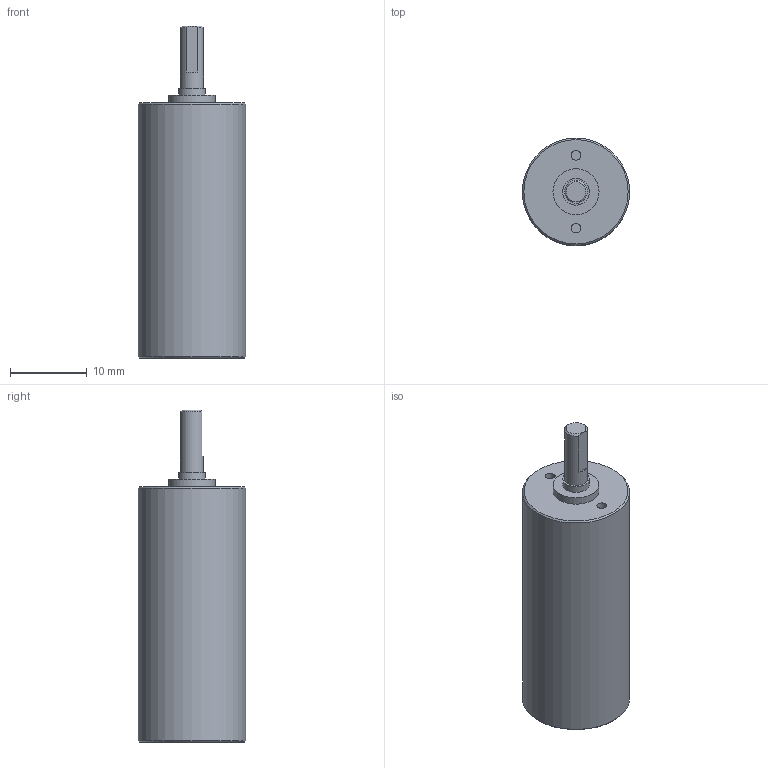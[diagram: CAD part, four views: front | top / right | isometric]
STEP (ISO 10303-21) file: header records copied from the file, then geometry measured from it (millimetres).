
FILE_DESCRIPTION(/* description */ (''),/* implementation_level */ '2;1');
FILE_NAME(/* name */ '14-1_4.stp',/* time_stamp */ '2016-08-24T13:45:45+02:00',/* author */ ('DR. FRITZ FAULHABER GmbH & Co. KG'),/* organization */ ('DR. FRITZ FAULHABER GmbH & Co. KG'),/* preprocessor_version */ 'ST-DEVELOPER v16',/* originating_system */ 'SIEMENS PLM Software NX 10.0',/* authorisation */ '');
FILE_SCHEMA (('AUTOMOTIVE_DESIGN { 1 0 10303 214 3 1 1 1 }'));
Length unit declared in the file: millimetre
Products named in the file (1): H00000257_A
Bounding box: 14 x 14 x 43.3 mm (x, y, z)
Volume: 4171.9 mm3; surface area: 2293.8 mm2
Topology: 1 solids, 1 shells, 22 faces, 38 edges, 25 vertices
Faces by surface type: plane 11, cylinder 8, cone 3
Full cylindrical faces by diameter (mm): 1.25 x2, 3 x1, 3.5 x1, 6 x2, 13 x1, 14 x1
Entity records: 483 total; most frequent: DIRECTION 89, CARTESIAN_POINT 76, ORIENTED_EDGE 50, AXIS2_PLACEMENT_3D 43, EDGE_LOOP 39, FACE_BOUND 32, EDGE_CURVE 25, ADVANCED_FACE 22
